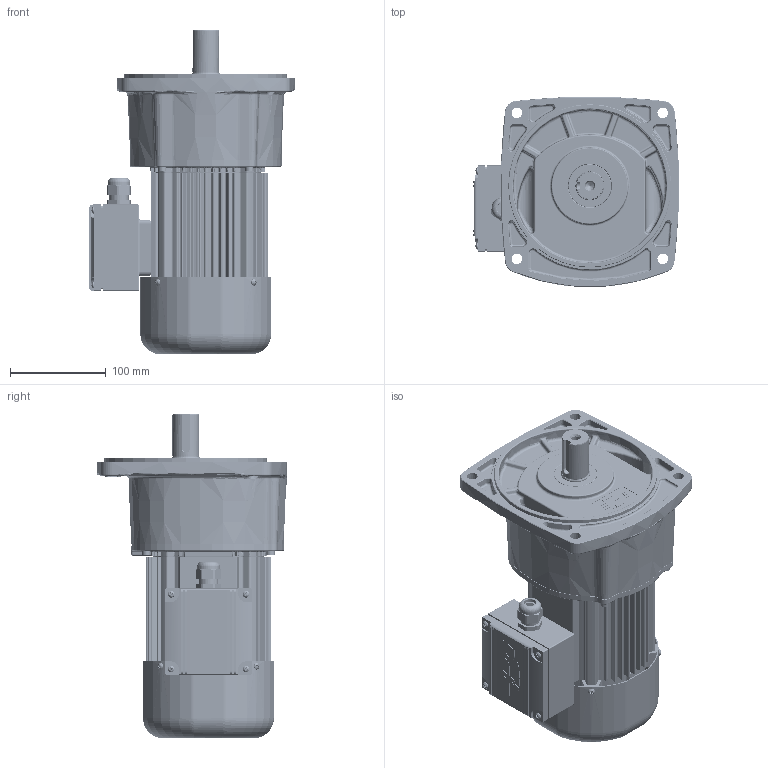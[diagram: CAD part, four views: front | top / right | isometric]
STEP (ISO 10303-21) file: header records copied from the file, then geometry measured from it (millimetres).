
FILE_DESCRIPTION(/* description */ (''),/* implementation_level */ '2;1');
FILE_NAME(/* name */ 'Z:\동력 3D 파일\PAF28_0.2kW_Brake_3D.stp',/* time_stamp */ '2021-11-08T15:09:36+09:00',/* author */ ('jaebok'),/* organization */ (''),/* preprocessor_version */ 'ST-DEVELOPER v18.1',/* originating_system */ 'Autodesk Inventor 2022',/* authorisation */ '');
FILE_SCHEMA (('AUTOMOTIVE_DESIGN { 1 0 10303 214 3 1 1 }'));
Products named in the file (1): 부품6
Bounding box: 214.24 x 198.24 x 338 mm (x, y, z)
Volume: 1925799.8 mm3; surface area: 623610.5 mm2
Topology: 3 solids, 34 shells, 4133 faces, 10389 edges, 6202 vertices
Faces by surface type: plane 1352, cylinder 1064, bspline 991, torus 354, cone 265, sphere 107
Full cylindrical faces by diameter (mm): 1.5 x2, 2 x5, 3 x4, 3.242 x4, 3.25 x1, 3.3 x8, 3.6 x4, 3.8 x3, 4 x20, 4.2 x13, 4.917 x4, 5 x26, 5.5 x4, 5.8 x2, 5.9 x3, 6 x13, 6.4 x1, 6.5 x6, 7 x12, 7.9 x6, 8 x4, 8.376 x1, 8.5 x5, 8.7 x1, 10 x1, 12.5 x1, 15 x1, 16 x1, 16.2 x1, 19 x1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
Entity records: 165536 total; most frequent: CARTESIAN_POINT 69639, ORIENTED_EDGE 20224, DIRECTION 17929, EDGE_CURVE 10112, AXIS2_PLACEMENT_3D 7208, VERTEX_POINT 6198, EDGE_LOOP 4424, FACE_OUTER_BOUND 4133
